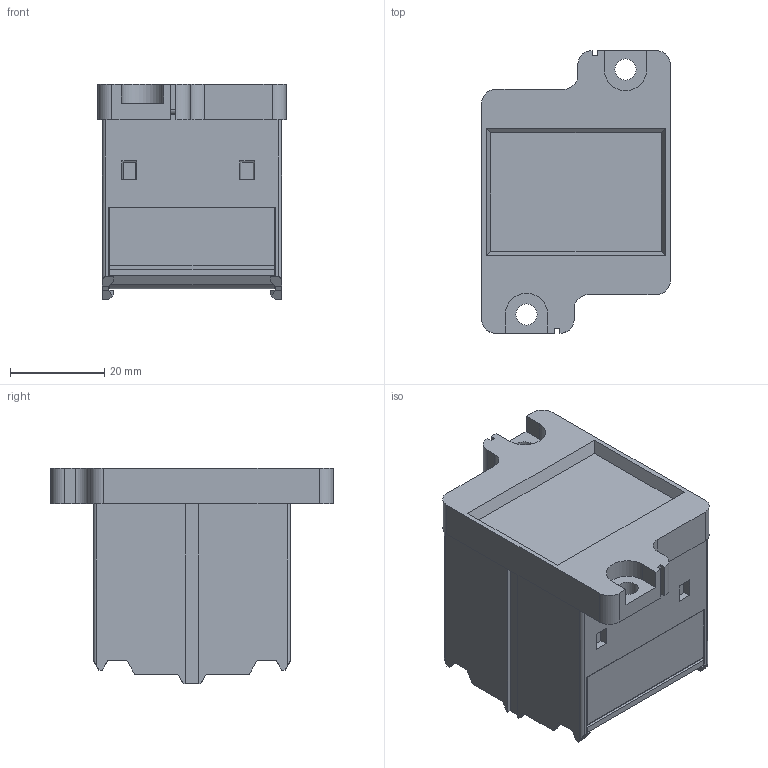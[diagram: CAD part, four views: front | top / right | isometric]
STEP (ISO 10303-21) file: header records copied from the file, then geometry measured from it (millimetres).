
FILE_DESCRIPTION((''),'2;1');
FILE_NAME('K:\TB\Bibliotheek\Inventor\Relais voeten\V33 voet\V33 solid.stp','2008-08-19T13:07:15',('Niriawan'),(''),'Autodesk Inventor 2009','Autodesk Inventor 2009','');
FILE_SCHEMA(('AUTOMOTIVE_DESIGN { 1 0 10303 214 1 1 1 1 }'));
Length unit declared in the file: millimetre
Products named in the file (1): V33 solid
Bounding box: 40 x 60 x 45.65 mm (x, y, z)
Volume: 66118.3 mm3; surface area: 17279.9 mm2
Topology: 1 solids, 1 shells, 287 faces, 758 edges, 480 vertices
Faces by surface type: plane 209, cylinder 50, cone 28
Full cylindrical faces by diameter (mm): 4.2 x28, 4.5 x2
Entity records: 8625 total; most frequent: CARTESIAN_POINT 1464, DIRECTION 1400, ORIENTED_EDGE 1360, EDGE_CURVE 680, VECTOR 520, LINE 520, VERTEX_POINT 460, AXIS2_PLACEMENT_3D 440
